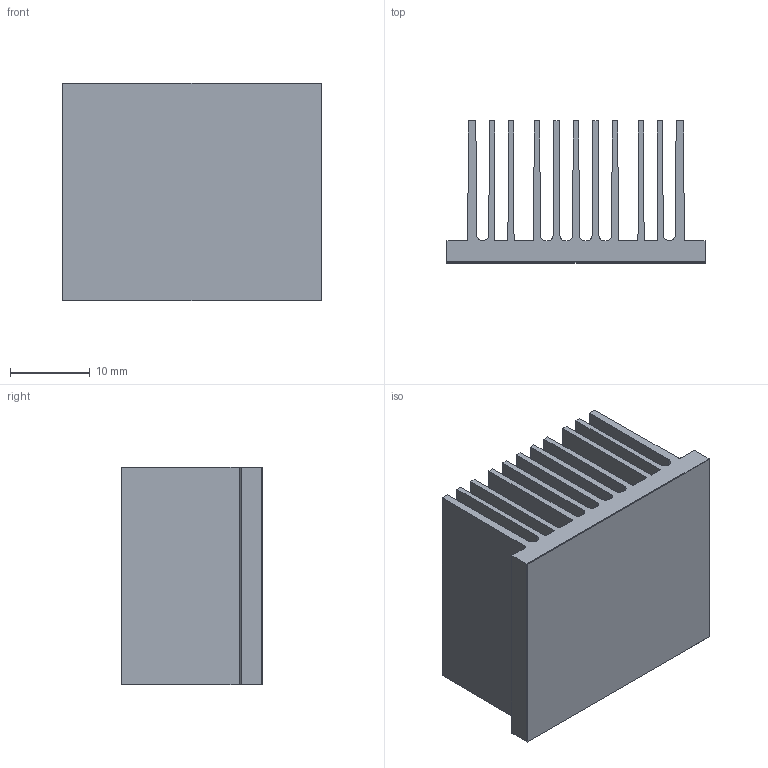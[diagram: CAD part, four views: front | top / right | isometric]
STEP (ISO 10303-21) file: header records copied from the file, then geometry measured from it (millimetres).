
FILE_DESCRIPTION (( 'STEP AP214' ), '1' );
FILE_NAME ('INH33001-18-2.6.STEP', '2023-02-17T18:13:20', ( '' ), ( '' ), 'SwSTEP 2.0', 'SolidWorks 2020', '' );
FILE_SCHEMA (( 'AUTOMOTIVE_DESIGN' ));
Length unit declared in the file: millimetre
Products named in the file (1): INH33001-18-2.6
Bounding box: 32.26 x 17.73 x 27.18 mm (x, y, z)
Volume: 5978.8 mm3; surface area: 12895.8 mm2
Topology: 2 solids, 2 shells, 72 faces, 204 edges, 136 vertices
Faces by surface type: plane 54, cylinder 18
Entity records: 3159 total; most frequent: CARTESIAN_POINT 413, ORIENTED_EDGE 408, DIRECTION 386, EDGE_CURVE 204, LINE 168, VECTOR 168, VERTEX_POINT 136, AXIS2_PLACEMENT_3D 109
